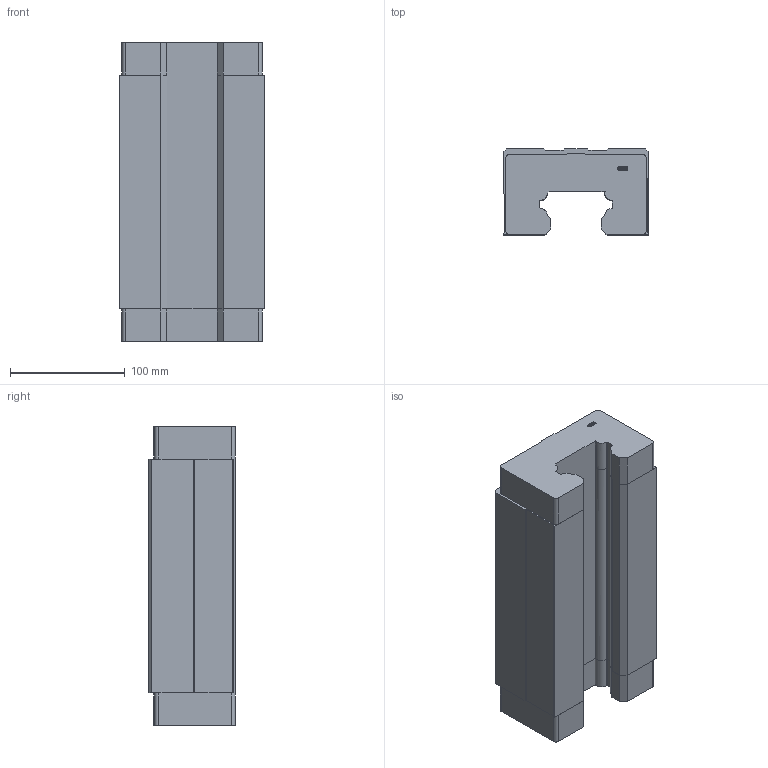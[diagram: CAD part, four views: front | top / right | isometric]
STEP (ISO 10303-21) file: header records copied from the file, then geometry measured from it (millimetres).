
FILE_DESCRIPTION (( 'STEP AP203' ), '1' );
FILE_NAME ('SMH65BL.stp', '2019-09-25T06:35:17', ( 'pgos' ), ( '' ), 'SwSTEP 2.0', 'SolidWorks 2014', '' );
FILE_SCHEMA (( 'CONFIG_CONTROL_DESIGN' ));
Length unit declared in the file: millimetre
Products named in the file (1): SMH65BL
Bounding box: 126 x 75 x 259.6 mm (x, y, z)
Volume: 1852227.5 mm3; surface area: 165907.2 mm2
Topology: 1 solids, 1 shells, 248 faces, 695 edges, 459 vertices
Faces by surface type: plane 162, bspline 54, cylinder 32
Entity records: 10549 total; most frequent: CARTESIAN_POINT 4412, ORIENTED_EDGE 1390, DIRECTION 1030, EDGE_CURVE 695, LINE 512, VECTOR 512, VERTEX_POINT 459, EDGE_LOOP 260
